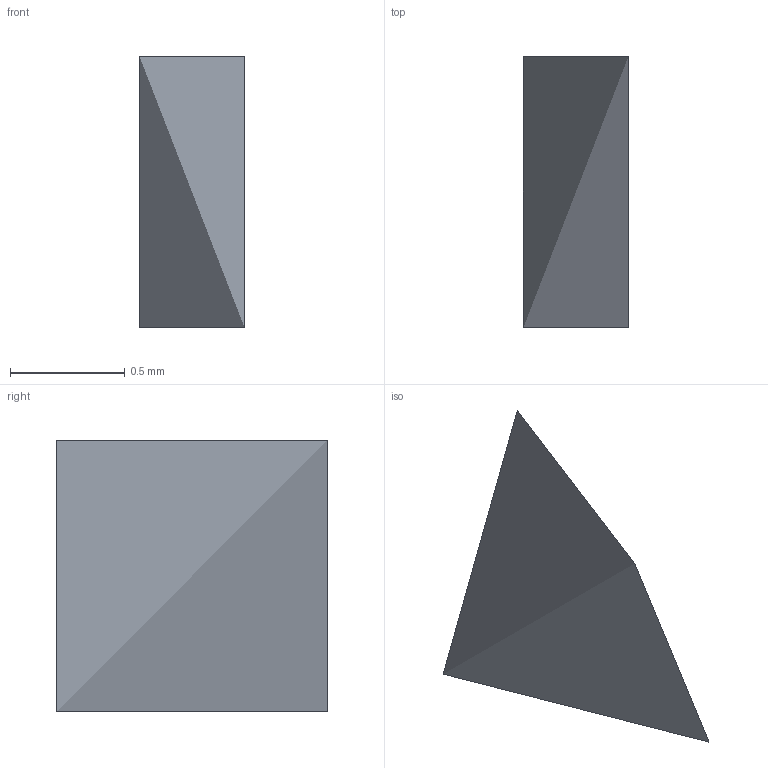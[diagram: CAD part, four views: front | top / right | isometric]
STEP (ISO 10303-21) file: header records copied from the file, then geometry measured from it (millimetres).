
FILE_DESCRIPTION(/* description */ ('STEP AP242 Edition 2','CAx-IF Rec.Pracs.---Representation and Presentation of Product Manufacturing Information (PMI)---4.0---2014-10-13','CAx-IF Rec.Pracs.---3D Tessellated Geometry---0.4---2014-09-14','2;1','CAx-IF Rec.Pracs.---User Defined Attributes---1.5---2016-08-15'),/* implementation_level */ '2;1');
FILE_NAME(/* name */ 'Assembly 1 - Part 79',/* time_stamp */ '2026-03-29T21:14:58Z',/* author */ (''),/* organization */ (''),/* preprocessor_version */ 'ST-DEVELOPER v20',/* originating_system */ 'ONSHAPE BY PTC INC, 1.212',/* authorisation */ ' ');
FILE_SCHEMA (('AP242_MANAGED_MODEL_BASED_3D_ENGINEERING_MIM_LF { 1 0 10303 442 3 1 4 }'));
Length unit declared in the file: metre
Products named in the file (1): Part 79
Bounding box: 0.46 x 1.18 x 1.18 mm (x, y, z)
Surface area: 3.2 mm2 (no closed solid volume)
Topology: 0 solids, 1 shells, 1 faces, 0 edges, 0 vertices
Faces by surface type: other 1
Entity records: 31 total; most frequent: DIRECTION 2, SHAPE_REPRESENTATION_RELATIONSHIP 1, TESSELLATED_SHAPE_REPRESENTATION 1, STYLED_ITEM 1, PRESENTATION_STYLE_ASSIGNMENT 1, SURFACE_STYLE_USAGE 1, SURFACE_SIDE_STYLE 1, SURFACE_STYLE_FILL_AREA 1
